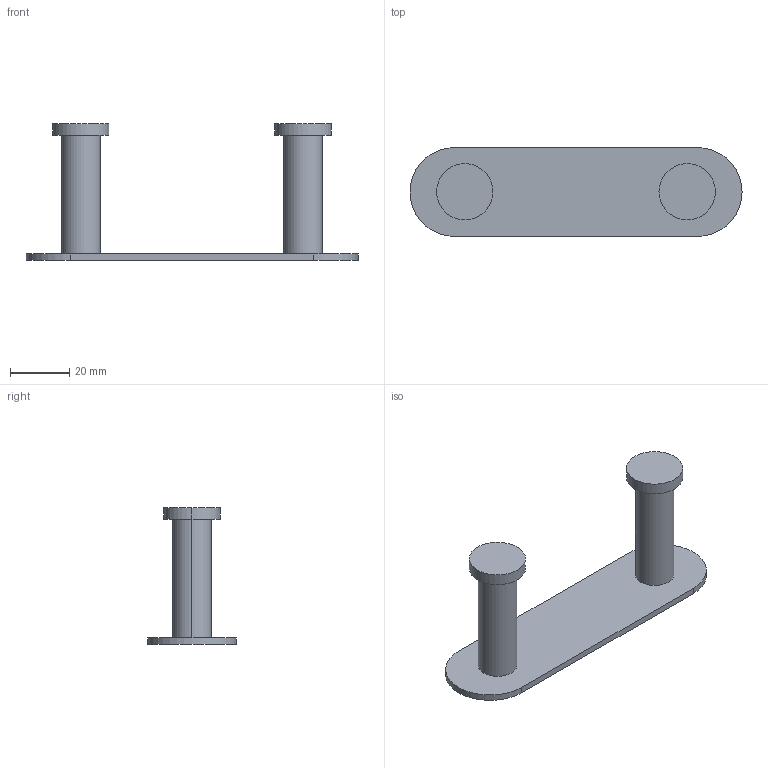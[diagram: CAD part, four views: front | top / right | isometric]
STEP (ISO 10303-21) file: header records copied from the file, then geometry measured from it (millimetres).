
FILE_DESCRIPTION((''),'2;1');
FILE_NAME('GC3312-0000_ASM','2021-09-06T17:45:23',('Administrator'),(''),'CREO PARAMETRIC BY PTC INC, 2019471','CREO PARAMETRIC BY PTC INC, 2019471','');
FILE_SCHEMA(('CONFIG_CONTROL_DESIGN'));
Length unit declared in the file: millimetre
Products named in the file (6): GC-02; 1018000; GC52-1201; GC52-1202; M4X10-0; GC3312-0000_ASM
Assembly tree (9 placements, depth 2):
  GC3312-0000_ASM
    GC-02
    1018000  x2
    GC52-1201  x2
    GC52-1202  x2
    M4X10-0  x2
Bounding box: 112 x 30 x 46.2 mm (x, y, z)
Volume: 16640.8 mm3; surface area: 16997.7 mm2
Topology: 9 solids, 15 shells, 330 faces, 878 edges, 572 vertices
Faces by surface type: cylinder 202, bspline 52, plane 40, cone 36
Entity records: 16561 total; most frequent: CARTESIAN_POINT 12582, ORIENTED_EDGE 886, DIRECTION 636, EDGE_CURVE 449, VERTEX_POINT 294, AXIS2_PLACEMENT_3D 235, B_SPLINE_CURVE_WITH_KNOTS 211, EDGE_LOOP 183
